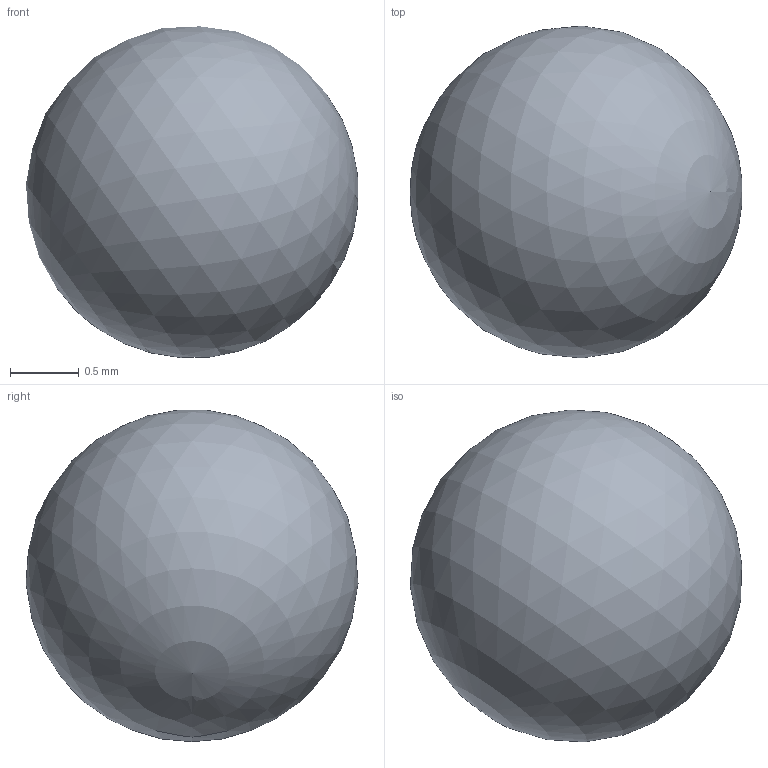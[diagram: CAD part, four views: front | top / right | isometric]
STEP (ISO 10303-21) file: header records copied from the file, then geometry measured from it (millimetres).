
FILE_DESCRIPTION(/* description */ ('STEP AP242 Edition 2','CAx-IF Rec.Pracs.---Representation and Presentation of Product Manufacturing Information (PMI)---4.0---2014-10-13','CAx-IF Rec.Pracs.---3D Tessellated Geometry---0.4---2014-09-14','2;1','CAx-IF Rec.Pracs.---User Defined Attributes---1.5---2016-08-15'),/* implementation_level */ '2;1');
FILE_NAME(/* name */ 'Assembly V2 - 6153K113_Stainless Steel Ball Bearing_1 (10)',/* time_stamp */ '2026-02-05T22:44:35Z',/* author */ (''),/* organization */ (''),/* preprocessor_version */ 'ST-DEVELOPER v20',/* originating_system */ 'ONSHAPE BY PTC INC, 1.210',/* authorisation */ ' ');
FILE_SCHEMA (('AP242_MANAGED_MODEL_BASED_3D_ENGINEERING_MIM_LF { 1 0 10303 442 3 1 4 }'));
Length unit declared in the file: metre
Products named in the file (1): 6153K113_Stainless Steel Ball Bearing_1
Bounding box: 2.42 x 2.42 x 2.41 mm (x, y, z)
Volume: 7.5 mm3; surface area: 18.5 mm2
Topology: 1 solids, 1 shells, 1 faces, 3 edges, 2 vertices
Faces by surface type: sphere 1
Entity records: 40 total; most frequent: DIRECTION 4, CARTESIAN_POINT 3, AXIS2_PLACEMENT_3D 2, SHAPE_REPRESENTATION_RELATIONSHIP 1, ADVANCED_BREP_SHAPE_REPRESENTATION 1, VERTEX_POINT 1, VERTEX_LOOP 1, FACE_BOUND 1
